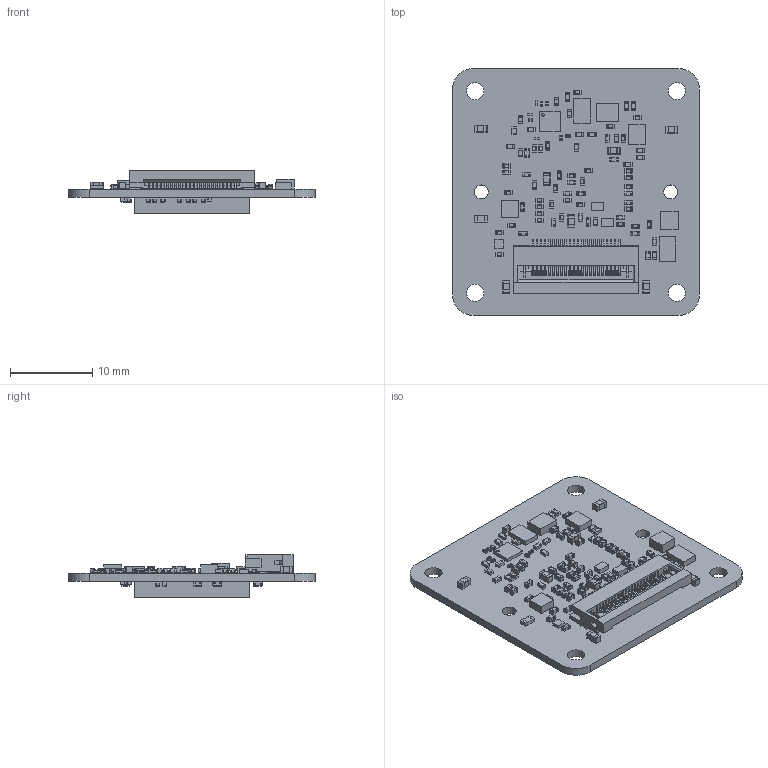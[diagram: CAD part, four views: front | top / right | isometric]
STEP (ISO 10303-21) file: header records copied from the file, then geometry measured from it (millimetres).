
FILE_DESCRIPTION(('Open CASCADE Model'),'2;1');
FILE_NAME('Open CASCADE Shape Model','2024-03-12T18:47:50',('Author'),( 'Open CASCADE'),'Open CASCADE STEP processor 6.8','Open CASCADE 6.8' ,'Unknown');
FILE_SCHEMA(('AUTOMOTIVE_DESIGN { 1 0 10303 214 1 1 1 1 }'));
Length unit declared in the file: millimetre
Products named in the file (179): PCB; Board; Open CASCADE STEP translator 6.8 14.1.1; C3; TIS_0402C_L025_H06; U6; 6583699024; Extruded; R30; TIS_0402R_L02_H04; R29; R28; R27; R26; R25; R24; R23; R22; R21; R20; R19; R18; U4; 6583699264; R14; R13; U1; 9012447152; R10; R9; R6; TIS_0603R_L034_H045; R4; R2; R1; D2; 6605815056; D1; C68; TIS_0603C_L04_H08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
Assembly tree (571 placements, depth 6):
  PCB
    Board
      Open CASCADE STEP translator 6.8 14.1.1
    C3
      TIS_0402C_L025_H06
      TIS_0402C_L025_H06
      TIS_0402C_L025_H06
    U6
      6583699024
        Extruded
    R30
      TIS_0402R_L02_H04
      TIS_0402R_L02_H04
      TIS_0402R_L02_H04
      TIS_0402R_L02_H04
    R29
      TIS_0402R_L02_H04
      TIS_0402R_L02_H04
      TIS_0402R_L02_H04
      TIS_0402R_L02_H04
    R28
      TIS_0402R_L02_H04
      TIS_0402R_L02_H04
      TIS_0402R_L02_H04
      TIS_0402R_L02_H04
    R27
      TIS_0402R_L02_H04
      TIS_0402R_L02_H04
      TIS_0402R_L02_H04
      TIS_0402R_L02_H04
    R26
      TIS_0402R_L02_H04
      TIS_0402R_L02_H04
      TIS_0402R_L02_H04
      TIS_0402R_L02_H04
    R25
      TIS_0402R_L02_H04
      TIS_0402R_L02_H04
      TIS_0402R_L02_H04
      TIS_0402R_L02_H04
    R24
      TIS_0402R_L02_H04
      TIS_0402R_L02_H04
      TIS_0402R_L02_H04
      TIS_0402R_L02_H04
    R23
      TIS_0402R_L02_H04
      TIS_0402R_L02_H04
      TIS_0402R_L02_H04
      TIS_0402R_L02_H04
    R22
      TIS_0402R_L02_H04
      TIS_0402R_L02_H04
      TIS_0402R_L02_H04
      TIS_0402R_L02_H04
    R21
      TIS_0402R_L02_H04
      TIS_0402R_L02_H04
      TIS_0402R_L02_H04
      TIS_0402R_L02_H04
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Bounding box: 30.01 x 30 x 5.21 mm (x, y, z)
Volume: 1459 mm3; surface area: 3930.5 mm2
Topology: 433 solids, 434 shells, 7525 faces, 17820 edges, 10347 vertices
Faces by surface type: plane 3366, cylinder 2827, sphere 684, torus 648
Full cylindrical faces by diameter (mm): 0.318 x1, 1.7 x2, 2.1 x4
Entity records: 36950 total; most frequent: DIRECTION 5798, CARTESIAN_POINT 5360, ORIENTED_EDGE 4801, EDGE_CURVE 2401, AXIS2_PLACEMENT_3D 1952, LINE 1894, VECTOR 1894, VERTEX_POINT 1514
